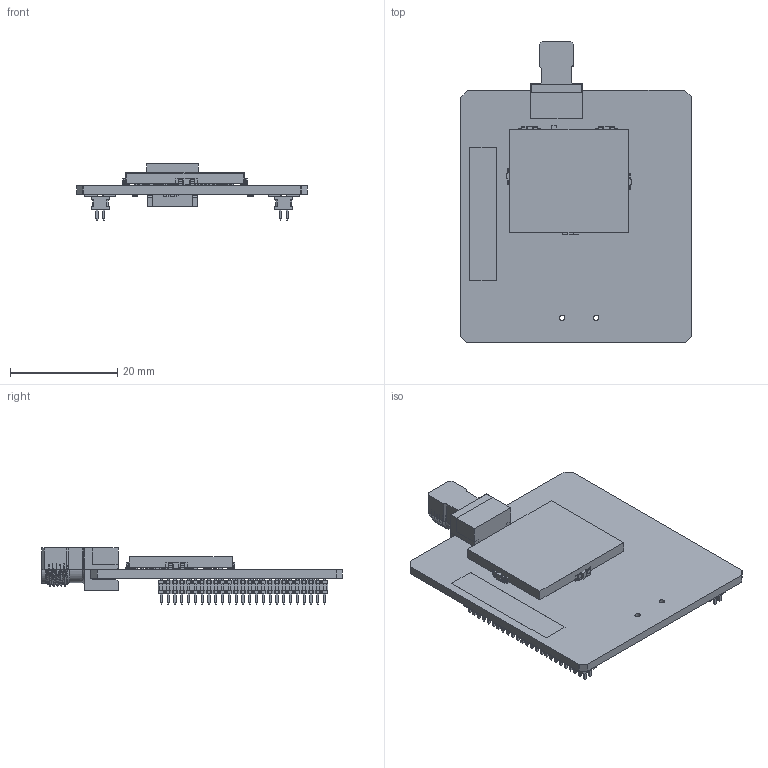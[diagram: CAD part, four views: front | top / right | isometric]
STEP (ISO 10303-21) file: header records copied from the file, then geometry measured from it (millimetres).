
FILE_DESCRIPTION(('Open CASCADE Model'),'2;1');
FILE_NAME('Open CASCADE Shape Model','2025-03-06T10:09:28',('Author'),( 'Open CASCADE'),'Open CASCADE STEP processor 7.5','Open CASCADE 7.5' ,'Unknown');
FILE_SCHEMA(('AUTOMOTIVE_DESIGN { 1 0 10303 214 1 1 1 1 }'));
Length unit declared in the file: millimetre
Products named in the file (110): PCB; Board; Open CASCADE STEP translator 7.5 1.1.1; HW1; Shield_Miniboard_V2; CN4; SMA_CINCH-JOHN_142-0701-851; 6774674720; Extruded; L1; C0402; 6774674560; L2; CN2; FTSH-125-02-L-DV; CN1; U1; UFQFPN48; 6774673760; C19; 6774670880; C18; C17; C16; C15; X2; User Library-NX1612SA; 6774672720; 6774672560; X1; 6774675200; 6774675280; 6774675120; SC5; Shield clip s0951-46; 6774671520; SC4; 6774671760; SC3; SC2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
Assembly tree (181 placements, depth 4):
  PCB
    Board
      Open CASCADE STEP translator 7.5 1.1.1
    HW1
      Shield_Miniboard_V2
    CN4
      SMA_CINCH-JOHN_142-0701-851
      6774674720
        Extruded
    L1
      C0402
      6774674560
        Extruded
    L2
      C0402
      6774674560
        Extruded
    CN2
      FTSH-125-02-L-DV
    CN1
      FTSH-125-02-L-DV
    U1
      UFQFPN48
      6774673760
        Extruded
    C19
      C0402
      6774670880
        Extruded
    C18
      C0402
      6774674560
        Extruded
    C17
      C0402
      6774670880
        Extruded
    C16
      C0402
      6774674560
        Extruded
    C15
      C0402
      6774670880
        Extruded
    X2
      User Library-NX1612SA
      6774672720
        Extruded
      6774672560
        Extruded
    X1
      6774675200
        Extruded
      6774675280
        Extruded
      6774675120
        Extruded
    SC5
      Shield clip s0951-46
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Bounding box: 43.1 x 56.25 x 10.5 mm (x, y, z)
Volume: 4715.8 mm3; surface area: 9999.9 mm2
Topology: 394 solids, 394 shells, 12552 faces, 29761 edges, 17439 vertices
Faces by surface type: plane 6609, cylinder 3058, bspline 1579, sphere 1009, torus 171, revolution 120, cone 6
Full cylindrical faces by diameter (mm): 0.991 x1, 1 x2, 4.674 x1, 5.08 x1, 5.385 x1
Entity records: 122977 total; most frequent: CARTESIAN_POINT 28604, ORIENTED_EDGE 17170, DIRECTION 16266, EDGE_CURVE 8585, LINE 7288, VECTOR 7288, VERTEX_POINT 5491, AXIS2_PLACEMENT_3D 4485
